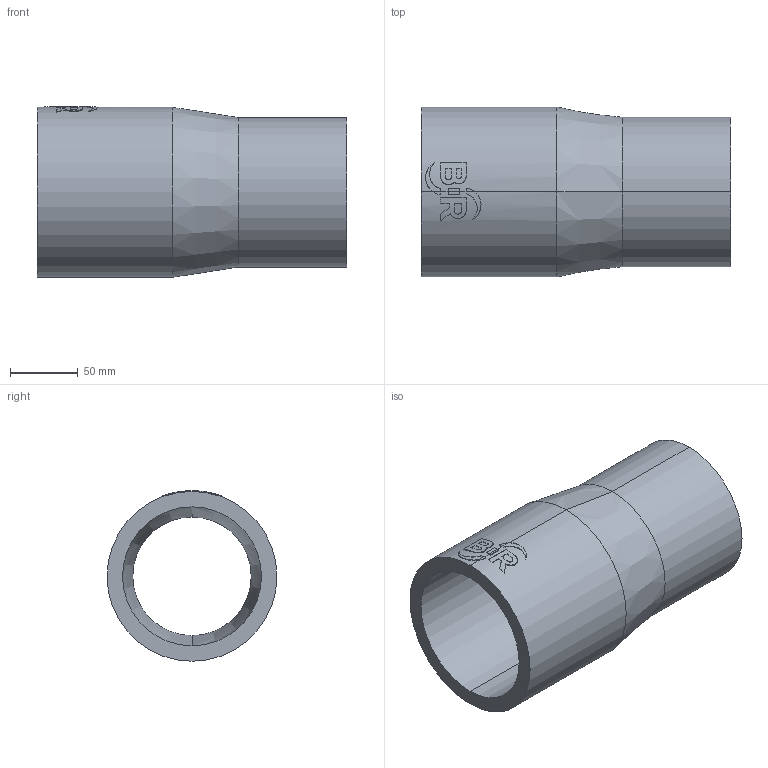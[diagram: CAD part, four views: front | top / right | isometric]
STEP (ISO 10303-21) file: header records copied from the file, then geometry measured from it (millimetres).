
FILE_DESCRIPTION (( 'STEP AP214' ), '1' );
FILE_NAME ('2323151415.STEP', '2018-07-20T09:56:57', ( '' ), ( '' ), 'SwSTEP 2.0', 'SolidWorks 2017', '' );
FILE_SCHEMA (( 'AUTOMOTIVE_DESIGN' ));
Length unit declared in the file: millimetre
Products named in the file (1): 2323151415
Bounding box: 228 x 125 x 125.46 mm (x, y, z)
Volume: 874007.3 mm3; surface area: 161054.1 mm2
Topology: 1 solids, 1 shells, 63 faces, 160 edges, 104 vertices
Faces by surface type: cylinder 31, plane 28, cone 4
Entity records: 3201 total; most frequent: CARTESIAN_POINT 992, ORIENTED_EDGE 320, DIRECTION 296, EDGE_CURVE 160, AXIS2_PLACEMENT_3D 112, VERTEX_POINT 104, VECTOR 72, LINE 72
